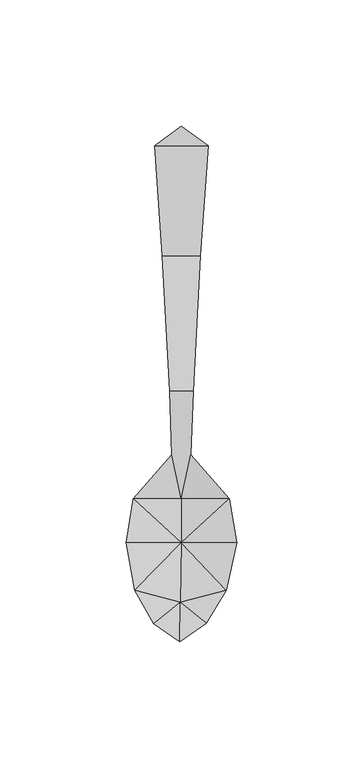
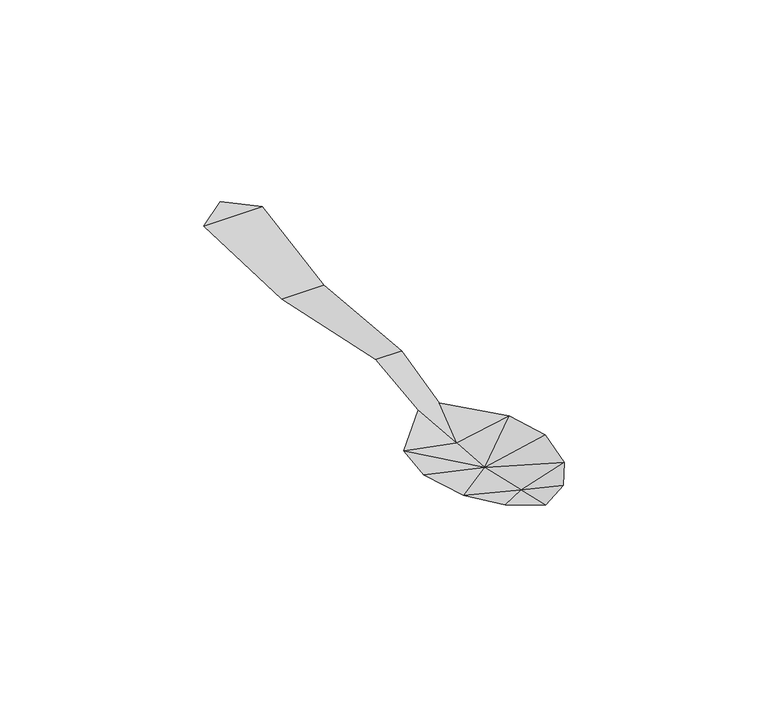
"""IFC4 building model written with IfcOpenShell, lengths in millimetres: geographic element geometry, Enscape AssetDefinition - Cutlery 004 Spoon : Enscape AssetDefinition - Cutlery 004 Spoon."""

from ifc_helpers import new_model, si_unit, origin, place, context, project, spatial, triangles, source, transform, mapped, element, save


def geographic_element_8d8a67f7(model_context):
    return source(origin(), model_context, "Body", "Tessellation", [
        triangles([(0.0, 102.4190119, 5.3321566), (-19.0861783, -45.4405267, 6.3600298), (-3.8040448, -27.990018, 6.0028614), (0.0, -45.4222593, 2.7396427), (-4.6726129, -2.8948888, 10.3781717), (4.6726129, -2.8948888, 10.3781717), (3.8040448, -27.990018, 6.0028614), (19.0861783, -45.4405267, 6.3600298), (-21.9678747, -62.9011842, 8.6643734), (0.0, -62.8768261, 3.9623351), (-18.4540301, -81.8412345, 11.0620678), (21.9678747, -62.9011842, 8.6643734), (17.7883969, -81.8412345, 11.0620678), (9.9033006, -94.9286261, 12.9432893), (-0.5925746, -102.3083991, 13.6779203), (-11.0559794, -95.0554534, 12.9432893), (-0.4667539, -86.5666183, 9.8271993), (-7.5705459, 50.9411175, 1.8933974), (7.5705459, 50.9411175, 1.8933974), (-10.5973432, 94.5186856, 4.4879406), (10.5973432, 94.5186856, 4.4879406)], [[20, 21, 1], [21, 20, 19], [20, 18, 19], [19, 18, 6], [15, 14, 17], [16, 15, 17], [14, 13, 17], [11, 16, 17], [12, 10, 13], [17, 10, 11], [12, 8, 10], [13, 10, 17], [10, 9, 11], [9, 10, 2], [2, 10, 4], [10, 8, 4], [8, 7, 4], [6, 5, 7], [18, 5, 6], [7, 3, 4], [4, 3, 2], [5, 3, 7]], closed=False),
    ])


if __name__ == "__main__":
    model = new_model("IFC4")
    model_context = context("Model", 3, world=origin())
    ifc_project = project(units=[si_unit("LENGTHUNIT", "METRE", prefix="MILLI")], contexts=[model_context])
    site = spatial("IfcSite", under=ifc_project)
    building = spatial("IfcBuilding", under=site)
    placement = place(None, origin())
    geographic_element_shape = geographic_element_8d8a67f7(model_context)
    element("IfcGeographicElement", 1, ObjectType="Enscape AssetDefinition - Cutlery 004 Spoon : Enscape AssetDefinition - Cutlery 004 Spoon", at=placement, inside=building, context=model_context, shape_type="MappedRepresentation", body=[
        mapped(geographic_element_shape, transform((0.0, 0.0, 0.0), x_axis=(1.0, 0.0, 0.0), y_axis=(0.0, 1.0, 0.0), z_axis=(0.0, 0.0, 1.0))),
    ])
    save(model, "model.ifc")
